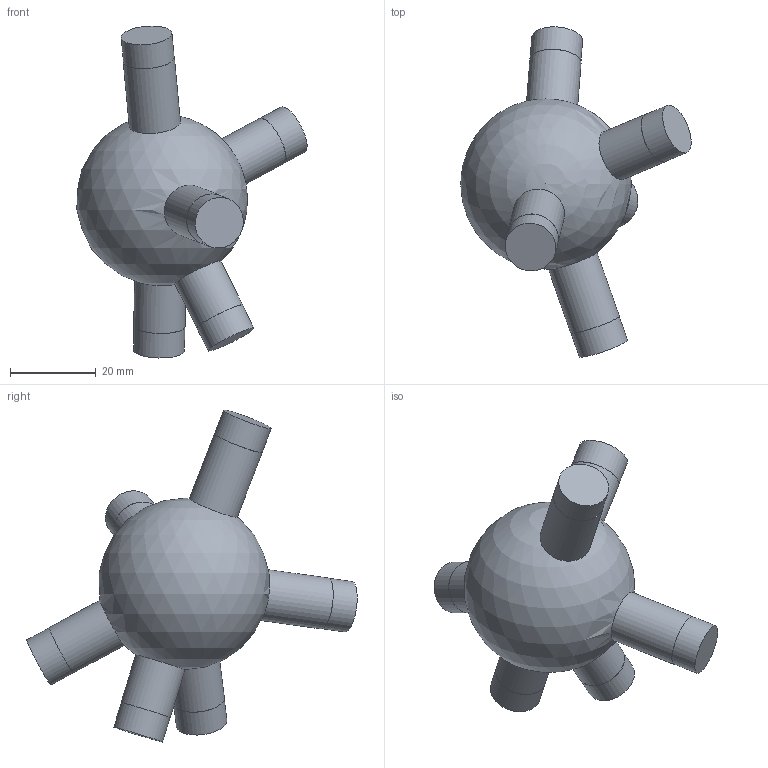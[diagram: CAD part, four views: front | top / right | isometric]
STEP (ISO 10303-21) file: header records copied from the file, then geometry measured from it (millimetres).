
FILE_DESCRIPTION(('Open CASCADE Model'),'2;1');
FILE_NAME('Open CASCADE Shape Model','2026-10-21T12:47:57',('Author'),( 'Open CASCADE'),'Open CASCADE STEP processor 7.9','Open CASCADE 7.9' ,'Unknown');
FILE_SCHEMA(('AUTOMOTIVE_DESIGN { 1 0 10303 214 1 1 1 1 }'));
Length unit declared in the file: millimetre
Products named in the file (1): Open CASCADE STEP translator 7.9 53
Bounding box: 53.8 x 77.18 x 77.55 mm (x, y, z)
Volume: 46341 mm3; surface area: 9403.7 mm2
Topology: 1 solids, 1 shells, 25 faces, 42 edges, 28 vertices
Faces by surface type: cylinder 12, plane 12, sphere 1
Full cylindrical faces by diameter (mm): 11.9 x6, 12 x6
Entity records: 1692 total; most frequent: CARTESIAN_POINT 744, DIRECTION 195, ORIENTED_EDGE 82, PCURVE 82, DEFINITIONAL_REPRESENTATION 82, LINE 67, VECTOR 67, AXIS2_PLACEMENT_3D 55
